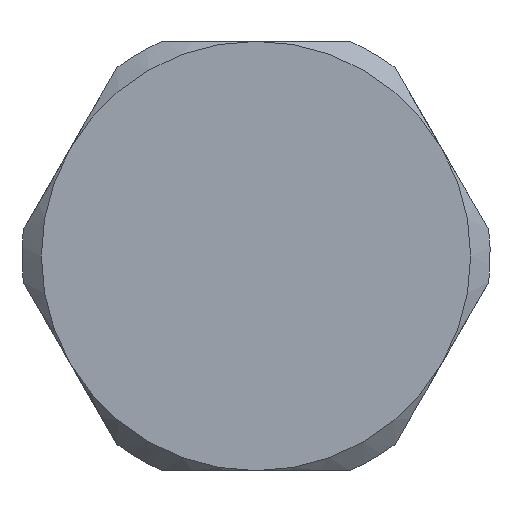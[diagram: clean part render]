
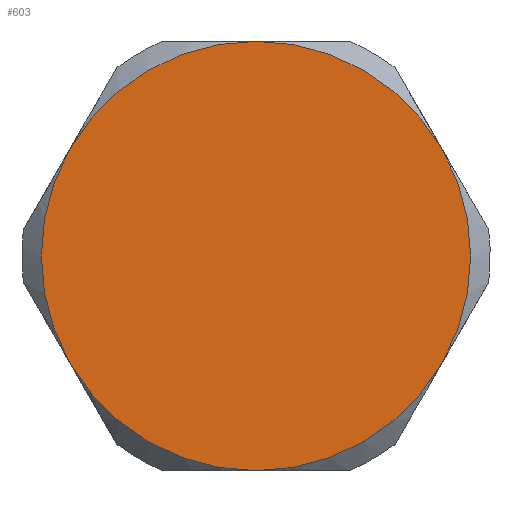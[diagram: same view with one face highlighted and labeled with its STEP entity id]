
A CAD part, front view. The second image highlights one B-rep face of the part: STEP entity #603.
In plain terms, the highlighted planar face has unit normal (0, -1, 0).
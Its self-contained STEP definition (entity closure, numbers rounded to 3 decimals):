
#4 = CARTESIAN_POINT ( 'NONE',  ( 0., -300., 0. ) ) ;
#8 = VERTEX_POINT ( 'NONE', #534 ) ;
#38 = AXIS2_PLACEMENT_3D ( 'NONE', #518, #172, #657 ) ;
#45 = CARTESIAN_POINT ( 'NONE',  ( 4.763, -300., -2.75 ) ) ;
#91 = ORIENTED_EDGE ( 'NONE', *, *, #333, .F. ) ;
#138 = AXIS2_PLACEMENT_3D ( 'NONE', #285, #564, #833 ) ;
#142 = ORIENTED_EDGE ( 'NONE', *, *, #502, .F. ) ;
#148 = VERTEX_POINT ( 'NONE', #767 ) ;
#172 = DIRECTION ( 'NONE',  ( 0., 1., 0. ) ) ;
#177 = CARTESIAN_POINT ( 'NONE',  ( 0., -300., 5.5 ) ) ;
#212 = DIRECTION ( 'NONE',  ( 0., 0., 1. ) ) ;
#243 = DIRECTION ( 'NONE',  ( 0., 0., 1. ) ) ;
#260 = CIRCLE ( 'NONE', #393, 5.5 ) ;
#282 = CIRCLE ( 'NONE', #716, 5.5 ) ;
#285 = CARTESIAN_POINT ( 'NONE',  ( 0., -300., 0. ) ) ;
#312 = EDGE_LOOP ( 'NONE', ( #886, #494, #142, #620, #91, #816 ) ) ;
#313 = VERTEX_POINT ( 'NONE', #443 ) ;
#333 = EDGE_CURVE ( 'NONE', #577, #313, #282, .T. ) ;
#360 = CIRCLE ( 'NONE', #38, 5.5 ) ;
#393 = AXIS2_PLACEMENT_3D ( 'NONE', #4, #777, #493 ) ;
#418 = DIRECTION ( 'NONE',  ( 0., 1., 0. ) ) ;
#428 = CARTESIAN_POINT ( 'NONE',  ( -4.763, -300., 2.75 ) ) ;
#443 = CARTESIAN_POINT ( 'NONE',  ( 0., -300., -5.5 ) ) ;
#481 = CIRCLE ( 'NONE', #765, 5.5 ) ;
#493 = DIRECTION ( 'NONE',  ( 0., 0., 1. ) ) ;
#494 = ORIENTED_EDGE ( 'NONE', *, *, #722, .F. ) ;
#502 = EDGE_CURVE ( 'NONE', #8, #715, #509, .T. ) ;
#509 = CIRCLE ( 'NONE', #871, 5.5 ) ;
#518 = CARTESIAN_POINT ( 'NONE',  ( 0., -300., 0. ) ) ;
#534 = CARTESIAN_POINT ( 'NONE',  ( -4.763, -300., -2.75 ) ) ;
#535 = DIRECTION ( 'NONE',  ( 0., 1., 0. ) ) ;
#564 = DIRECTION ( 'NONE',  ( 0., 1., 0. ) ) ;
#577 = VERTEX_POINT ( 'NONE', #45 ) ;
#603 = ADVANCED_FACE ( 'NONE', ( #829 ), #615, .F. ) ;
#604 = AXIS2_PLACEMENT_3D ( 'NONE', #697, #418, #212 ) ;
#606 = DIRECTION ( 'NONE',  ( 0., 0., 1. ) ) ;
#615 = PLANE ( 'NONE',  #604 ) ;
#620 = ORIENTED_EDGE ( 'NONE', *, *, #757, .F. ) ;
#655 = DIRECTION ( 'NONE',  ( 0., 1., 0. ) ) ;
#657 = DIRECTION ( 'NONE',  ( 0., 0., 1. ) ) ;
#697 = CARTESIAN_POINT ( 'NONE',  ( 0., -300., 0. ) ) ;
#704 = EDGE_CURVE ( 'NONE', #148, #577, #774, .T. ) ;
#715 = VERTEX_POINT ( 'NONE', #428 ) ;
#716 = AXIS2_PLACEMENT_3D ( 'NONE', #870, #655, #243 ) ;
#722 = EDGE_CURVE ( 'NONE', #715, #855, #260, .T. ) ;
#748 = CARTESIAN_POINT ( 'NONE',  ( 0., -300., 0. ) ) ;
#757 = EDGE_CURVE ( 'NONE', #313, #8, #481, .T. ) ;
#765 = AXIS2_PLACEMENT_3D ( 'NONE', #859, #789, #850 ) ;
#767 = CARTESIAN_POINT ( 'NONE',  ( 4.763, -300., 2.75 ) ) ;
#774 = CIRCLE ( 'NONE', #138, 5.5 ) ;
#777 = DIRECTION ( 'NONE',  ( 0., 1., 0. ) ) ;
#789 = DIRECTION ( 'NONE',  ( 0., 1., 0. ) ) ;
#816 = ORIENTED_EDGE ( 'NONE', *, *, #704, .F. ) ;
#829 = FACE_OUTER_BOUND ( 'NONE', #312, .T. ) ;
#833 = DIRECTION ( 'NONE',  ( 0., 0., 1. ) ) ;
#850 = DIRECTION ( 'NONE',  ( 0., 0., 1. ) ) ;
#855 = VERTEX_POINT ( 'NONE', #177 ) ;
#859 = CARTESIAN_POINT ( 'NONE',  ( 0., -300., 0. ) ) ;
#870 = CARTESIAN_POINT ( 'NONE',  ( 0., -300., 0. ) ) ;
#871 = AXIS2_PLACEMENT_3D ( 'NONE', #748, #535, #606 ) ;
#875 = EDGE_CURVE ( 'NONE', #855, #148, #360, .T. ) ;
#886 = ORIENTED_EDGE ( 'NONE', *, *, #875, .F. ) ;
